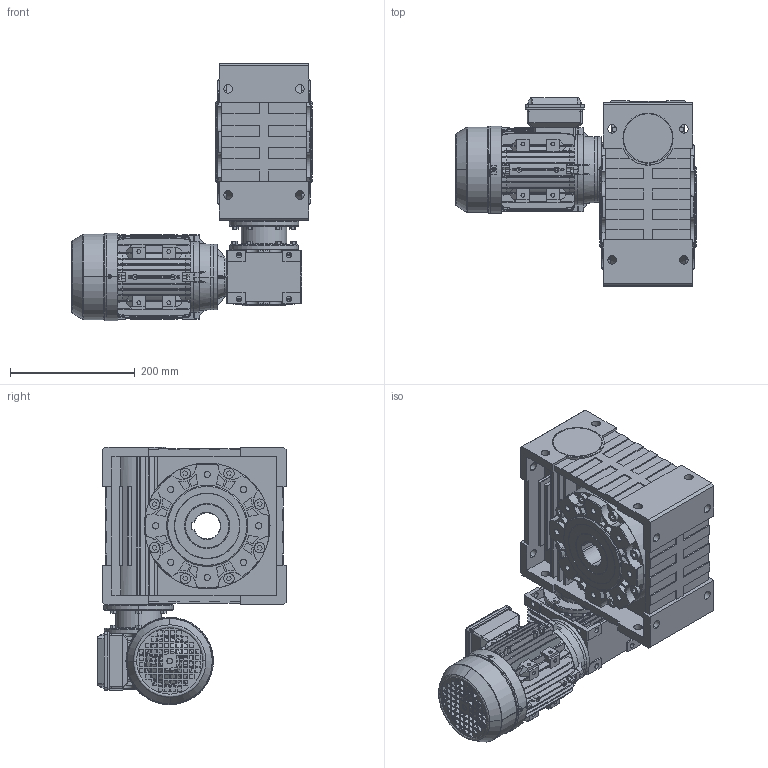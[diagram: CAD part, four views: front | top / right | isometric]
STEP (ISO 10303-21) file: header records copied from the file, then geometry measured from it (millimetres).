
FILE_DESCRIPTION (( 'STEP AP214' ), '1' );
FILE_NAME ('CMRV110-050-MX-71.STEP', '2019-05-16T11:09:15', ( '' ), ( '' ), 'SwSTEP 2.0', 'SolidWorks 2012', '' );
FILE_SCHEMA (( 'AUTOMOTIVE_DESIGN' ));
Products named in the file (18): Lüfterhaube_MS71; L黤terfl黦el_MS71; Klemmkastenoberteil_MS71; Klemmenkastenunterteil_MS71; B14-Flansch_MS71; B-Lagerschild_MS71; Gehäuse_MS71L; CMRV110-050-71B14; 5-1; 4-1; 3-1; 3_2; 1-2_1; 1-1; 1_2; 5_1; CMRV110-050-MX-71; MX71_B14
Assembly tree (17 placements, depth 3):
  CMRV110-050-MX-71
    CMRV110-050-71B14
      5_1
      1_2
      1-1
      1-2_1
      3_2
      3-1
      4-1
      5-1
    MX71_B14
      Gehäuse_MS71L
      B-Lagerschild_MS71
      B14-Flansch_MS71
      Klemmenkastenunterteil_MS71
      Klemmkastenoberteil_MS71
      L黤terfl黦el_MS71
      Lüfterhaube_MS71
Bounding box: 385.71 x 301.5 x 412.5 mm (x, y, z)
Volume: 10437643.8 mm3; surface area: 1449957.4 mm2
Topology: 15 solids, 15 shells, 3886 faces, 10489 edges, 6885 vertices
Faces by surface type: plane 2165, cylinder 1294, cone 273, bspline 150, torus 4
Entity records: 139754 total; most frequent: CARTESIAN_POINT 42139, ORIENTED_EDGE 20958, DIRECTION 19095, EDGE_CURVE 10479, VERTEX_POINT 6885, AXIS2_PLACEMENT_3D 6378, LINE 6339, VECTOR 6339
